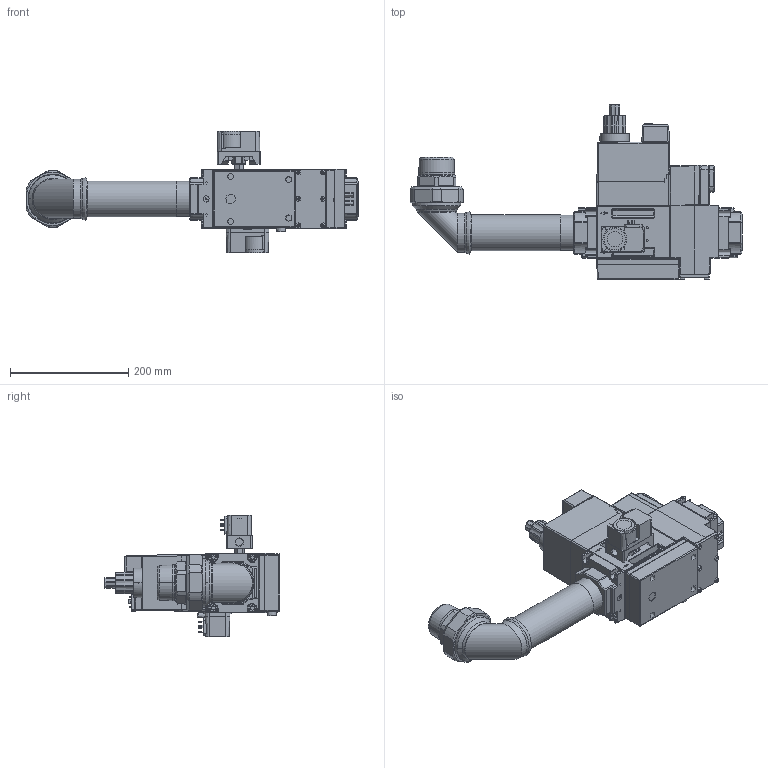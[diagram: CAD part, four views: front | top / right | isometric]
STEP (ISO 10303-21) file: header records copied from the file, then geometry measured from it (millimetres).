
FILE_DESCRIPTION (( 'STEP AP214' ), '1' );
FILE_NAME ('19990755.STEP', '2025-02-14T07:18:58', ( '' ), ( '' ), 'SwSTEP 2.0', 'SolidWorks 2021', '' );
FILE_SCHEMA (( 'AUTOMOTIVE_DESIGN' ));
Length unit declared in the file: millimetre
Products named in the file (1): 19990755
Bounding box: 560.7 x 296 x 205.81 mm (x, y, z)
Volume: 5122922.5 mm3; surface area: 535732 mm2
Topology: 12 solids, 12 shells, 2653 faces, 6672 edges, 4156 vertices
Faces by surface type: plane 1031, cylinder 770, bspline 665, torus 98, cone 56, sphere 33
Full cylindrical faces by diameter (mm): 0.7 x2, 1.5 x4, 2 x2, 2.5 x8, 3.7 x3, 4 x4, 4.5 x1, 4.8 x1, 6.2 x1, 6.647 x8, 6.75 x2, 6.917 x8, 7 x1, 8 x3, 8.5 x6, 8.57 x1, 9 x2, 9.73 x1, 10 x3, 10.5 x6, 10.6 x1, 10.96 x2, 11 x7, 12.5 x2, 13.16 x1, 15 x4, 15.2 x1, 15.3 x1, 26 x2, 36.15 x2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
Entity records: 160715 total; most frequent: CARTESIAN_POINT 75446, ORIENTED_EDGE 12702, DIRECTION 9297, EDGE_CURVE 6351, VERTEX_POINT 4087, AXIS2_PLACEMENT_3D 3156, EDGE_LOOP 3088, LINE 2985
